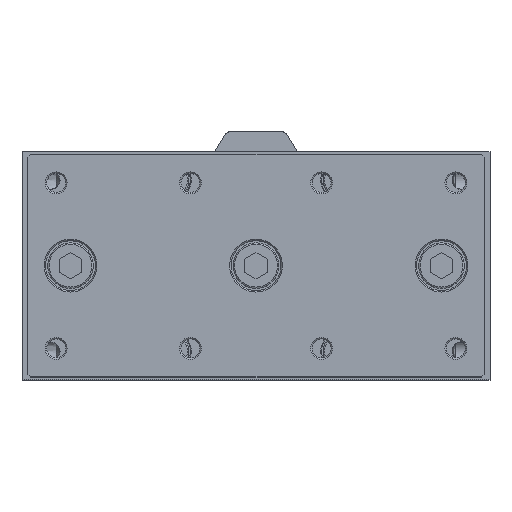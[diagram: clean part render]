
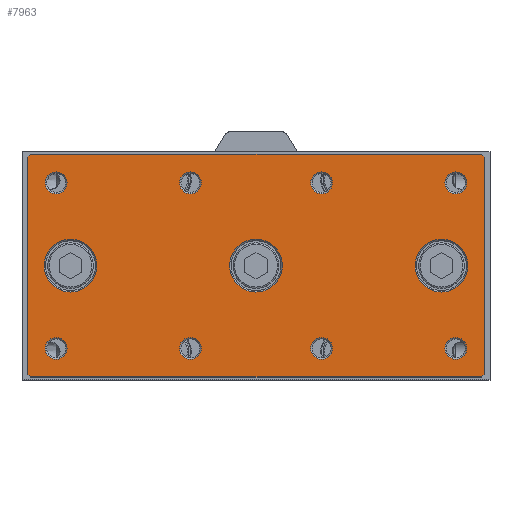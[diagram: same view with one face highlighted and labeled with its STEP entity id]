
A CAD part, top view. The second image highlights one B-rep face of the part: STEP entity #7963.
In plain terms, the highlighted planar face has unit normal (0, 0, 1).
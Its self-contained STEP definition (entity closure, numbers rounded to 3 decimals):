
#7745=CARTESIAN_POINT('',(-78.641,-40.316,135.5));
#7746=VERTEX_POINT('',#7745);
#7747=CARTESIAN_POINT('',(-79.641,-39.316,135.5));
#7748=VERTEX_POINT('',#7747);
#7749=CARTESIAN_POINT('',(-78.641,-40.316,135.5));
#7750=DIRECTION('',(-0.707,0.707,0.0));
#7751=VECTOR('',#7750,1.414);
#7752=LINE('',#7749,#7751);
#7753=EDGE_CURVE('',#7746,#7748,#7752,.T.);
#7780=CARTESIAN_POINT('',(0.359,-1.316,135.5));
#7781=DIRECTION('',(0.0,0.0,1.0));
#7782=DIRECTION('',(1.0,0.0,0.0));
#7783=AXIS2_PLACEMENT_3D('',#7780,#7781,#7782);
#7784=PLANE('',#7783);
#7785=ORIENTED_EDGE('',*,*,#7753,.F.);
#7786=CARTESIAN_POINT('',(79.359,-40.316,135.5));
#7787=VERTEX_POINT('',#7786);
#7788=CARTESIAN_POINT('',(79.359,-40.316,135.5));
#7789=DIRECTION('',(-1.0,0.0,0.0));
#7790=VECTOR('',#7789,158.0);
#7791=LINE('',#7788,#7790);
#7792=EDGE_CURVE('',#7787,#7746,#7791,.T.);
#7793=ORIENTED_EDGE('',*,*,#7792,.F.);
#7794=CARTESIAN_POINT('',(80.359,-39.316,135.5));
#7795=VERTEX_POINT('',#7794);
#7796=CARTESIAN_POINT('',(80.359,-39.316,135.5));
#7797=DIRECTION('',(-0.707,-0.707,0.0));
#7798=VECTOR('',#7797,1.414);
#7799=LINE('',#7796,#7798);
#7800=EDGE_CURVE('',#7795,#7787,#7799,.T.);
#7801=ORIENTED_EDGE('',*,*,#7800,.F.);
#7802=CARTESIAN_POINT('',(80.359,36.684,135.5));
#7803=VERTEX_POINT('',#7802);
#7804=CARTESIAN_POINT('',(80.359,36.684,135.5));
#7805=DIRECTION('',(0.0,-1.0,0.0));
#7806=VECTOR('',#7805,76.);
#7807=LINE('',#7804,#7806);
#7808=EDGE_CURVE('',#7803,#7795,#7807,.T.);
#7809=ORIENTED_EDGE('',*,*,#7808,.F.);
#7810=CARTESIAN_POINT('',(79.359,37.684,135.5));
#7811=VERTEX_POINT('',#7810);
#7812=CARTESIAN_POINT('',(79.359,37.684,135.5));
#7813=DIRECTION('',(0.707,-0.707,0.0));
#7814=VECTOR('',#7813,1.414);
#7815=LINE('',#7812,#7814);
#7816=EDGE_CURVE('',#7811,#7803,#7815,.T.);
#7817=ORIENTED_EDGE('',*,*,#7816,.F.);
#7818=CARTESIAN_POINT('',(-78.641,37.684,135.5));
#7819=VERTEX_POINT('',#7818);
#7820=CARTESIAN_POINT('',(-78.641,37.684,135.5));
#7821=DIRECTION('',(1.0,0.0,0.0));
#7822=VECTOR('',#7821,158.0);
#7823=LINE('',#7820,#7822);
#7824=EDGE_CURVE('',#7819,#7811,#7823,.T.);
#7825=ORIENTED_EDGE('',*,*,#7824,.F.);
#7826=CARTESIAN_POINT('',(-79.641,36.684,135.5));
#7827=VERTEX_POINT('',#7826);
#7828=CARTESIAN_POINT('',(-79.641,36.684,135.5));
#7829=DIRECTION('',(0.707,0.707,0.0));
#7830=VECTOR('',#7829,1.414);
#7831=LINE('',#7828,#7830);
#7832=EDGE_CURVE('',#7827,#7819,#7831,.T.);
#7833=ORIENTED_EDGE('',*,*,#7832,.F.);
#7834=CARTESIAN_POINT('',(-79.641,-39.316,135.5));
#7835=DIRECTION('',(0.0,1.0,0.0));
#7836=VECTOR('',#7835,76.0);
#7837=LINE('',#7834,#7836);
#7838=EDGE_CURVE('',#7748,#7827,#7837,.T.);
#7839=ORIENTED_EDGE('',*,*,#7838,.F.);
#7840=EDGE_LOOP('',(#7785,#7793,#7801,#7809,#7817,#7825,#7833,#7839));
#7841=FACE_OUTER_BOUND('',#7840,.T.);
#7842=CARTESIAN_POINT('',(-65.818,27.684,135.5));
#7843=VERTEX_POINT('',#7842);
#7844=CARTESIAN_POINT('',(-69.641,27.684,135.5));
#7845=DIRECTION('',(0.0,0.0,1.0));
#7846=DIRECTION('',(-1.0,0.0,0.0));
#7847=AXIS2_PLACEMENT_3D('',#7844,#7845,#7846);
#7848=CIRCLE('',#7847,3.823);
#7849=EDGE_CURVE('',#7843,#7843,#7848,.T.);
#7850=ORIENTED_EDGE('',*,*,#7849,.F.);
#7851=EDGE_LOOP('',(#7850));
#7852=FACE_BOUND('',#7851,.T.);
#7853=CARTESIAN_POINT('',(-18.818,27.684,135.5));
#7854=VERTEX_POINT('',#7853);
#7855=CARTESIAN_POINT('',(-22.641,27.684,135.5));
#7856=DIRECTION('',(0.0,0.0,1.0));
#7857=DIRECTION('',(-1.0,0.0,0.0));
#7858=AXIS2_PLACEMENT_3D('',#7855,#7856,#7857);
#7859=CIRCLE('',#7858,3.823);
#7860=EDGE_CURVE('',#7854,#7854,#7859,.T.);
#7861=ORIENTED_EDGE('',*,*,#7860,.F.);
#7862=EDGE_LOOP('',(#7861));
#7863=FACE_BOUND('',#7862,.T.);
#7864=CARTESIAN_POINT('',(9.609,-1.316,135.5));
#7865=VERTEX_POINT('',#7864);
#7866=CARTESIAN_POINT('',(0.359,-1.316,135.5));
#7867=DIRECTION('',(0.0,0.0,1.0));
#7868=DIRECTION('',(-1.0,0.0,0.0));
#7869=AXIS2_PLACEMENT_3D('',#7866,#7867,#7868);
#7870=CIRCLE('',#7869,9.25);
#7871=EDGE_CURVE('',#7865,#7865,#7870,.T.);
#7872=ORIENTED_EDGE('',*,*,#7871,.F.);
#7873=EDGE_LOOP('',(#7872));
#7874=FACE_BOUND('',#7873,.T.);
#7875=CARTESIAN_POINT('',(74.609,-1.316,135.5));
#7876=VERTEX_POINT('',#7875);
#7877=CARTESIAN_POINT('',(65.359,-1.316,135.5));
#7878=DIRECTION('',(0.0,0.0,1.0));
#7879=DIRECTION('',(-1.0,0.0,0.0));
#7880=AXIS2_PLACEMENT_3D('',#7877,#7878,#7879);
#7881=CIRCLE('',#7880,9.25);
#7882=EDGE_CURVE('',#7876,#7876,#7881,.T.);
#7883=ORIENTED_EDGE('',*,*,#7882,.F.);
#7884=EDGE_LOOP('',(#7883));
#7885=FACE_BOUND('',#7884,.T.);
#7886=CARTESIAN_POINT('',(-55.391,-1.316,135.5));
#7887=VERTEX_POINT('',#7886);
#7888=CARTESIAN_POINT('',(-64.641,-1.316,135.5));
#7889=DIRECTION('',(0.0,0.0,1.0));
#7890=DIRECTION('',(-1.0,0.0,0.0));
#7891=AXIS2_PLACEMENT_3D('',#7888,#7889,#7890);
#7892=CIRCLE('',#7891,9.25);
#7893=EDGE_CURVE('',#7887,#7887,#7892,.T.);
#7894=ORIENTED_EDGE('',*,*,#7893,.F.);
#7895=EDGE_LOOP('',(#7894));
#7896=FACE_BOUND('',#7895,.T.);
#7897=CARTESIAN_POINT('',(74.182,-30.316,135.5));
#7898=VERTEX_POINT('',#7897);
#7899=CARTESIAN_POINT('',(70.359,-30.316,135.5));
#7900=DIRECTION('',(0.0,0.0,1.0));
#7901=DIRECTION('',(-1.0,0.0,0.0));
#7902=AXIS2_PLACEMENT_3D('',#7899,#7900,#7901);
#7903=CIRCLE('',#7902,3.823);
#7904=EDGE_CURVE('',#7898,#7898,#7903,.T.);
#7905=ORIENTED_EDGE('',*,*,#7904,.F.);
#7906=EDGE_LOOP('',(#7905));
#7907=FACE_BOUND('',#7906,.T.);
#7908=CARTESIAN_POINT('',(-65.818,-30.316,135.5));
#7909=VERTEX_POINT('',#7908);
#7910=CARTESIAN_POINT('',(-69.641,-30.316,135.5));
#7911=DIRECTION('',(0.0,0.0,1.0));
#7912=DIRECTION('',(-1.0,0.0,0.0));
#7913=AXIS2_PLACEMENT_3D('',#7910,#7911,#7912);
#7914=CIRCLE('',#7913,3.823);
#7915=EDGE_CURVE('',#7909,#7909,#7914,.T.);
#7916=ORIENTED_EDGE('',*,*,#7915,.F.);
#7917=EDGE_LOOP('',(#7916));
#7918=FACE_BOUND('',#7917,.T.);
#7919=CARTESIAN_POINT('',(74.182,27.684,135.5));
#7920=VERTEX_POINT('',#7919);
#7921=CARTESIAN_POINT('',(70.359,27.684,135.5));
#7922=DIRECTION('',(0.0,0.0,1.0));
#7923=DIRECTION('',(-1.0,0.0,0.0));
#7924=AXIS2_PLACEMENT_3D('',#7921,#7922,#7923);
#7925=CIRCLE('',#7924,3.823);
#7926=EDGE_CURVE('',#7920,#7920,#7925,.T.);
#7927=ORIENTED_EDGE('',*,*,#7926,.F.);
#7928=EDGE_LOOP('',(#7927));
#7929=FACE_BOUND('',#7928,.T.);
#7930=CARTESIAN_POINT('',(27.182,-30.316,135.5));
#7931=VERTEX_POINT('',#7930);
#7932=CARTESIAN_POINT('',(23.359,-30.316,135.5));
#7933=DIRECTION('',(0.0,0.0,1.0));
#7934=DIRECTION('',(-1.0,0.0,0.0));
#7935=AXIS2_PLACEMENT_3D('',#7932,#7933,#7934);
#7936=CIRCLE('',#7935,3.824);
#7937=EDGE_CURVE('',#7931,#7931,#7936,.T.);
#7938=ORIENTED_EDGE('',*,*,#7937,.F.);
#7939=EDGE_LOOP('',(#7938));
#7940=FACE_BOUND('',#7939,.T.);
#7941=CARTESIAN_POINT('',(-18.818,-30.316,135.5));
#7942=VERTEX_POINT('',#7941);
#7943=CARTESIAN_POINT('',(-22.641,-30.316,135.5));
#7944=DIRECTION('',(0.0,0.0,1.0));
#7945=DIRECTION('',(-1.0,0.0,0.0));
#7946=AXIS2_PLACEMENT_3D('',#7943,#7944,#7945);
#7947=CIRCLE('',#7946,3.823);
#7948=EDGE_CURVE('',#7942,#7942,#7947,.T.);
#7949=ORIENTED_EDGE('',*,*,#7948,.F.);
#7950=EDGE_LOOP('',(#7949));
#7951=FACE_BOUND('',#7950,.T.);
#7952=CARTESIAN_POINT('',(27.182,27.684,135.5));
#7953=VERTEX_POINT('',#7952);
#7954=CARTESIAN_POINT('',(23.359,27.684,135.5));
#7955=DIRECTION('',(0.0,0.0,1.0));
#7956=DIRECTION('',(-1.0,0.0,0.0));
#7957=AXIS2_PLACEMENT_3D('',#7954,#7955,#7956);
#7958=CIRCLE('',#7957,3.824);
#7959=EDGE_CURVE('',#7953,#7953,#7958,.T.);
#7960=ORIENTED_EDGE('',*,*,#7959,.F.);
#7961=EDGE_LOOP('',(#7960));
#7962=FACE_BOUND('',#7961,.T.);
#7963=ADVANCED_FACE('',(#7841,#7852,#7863,#7874,#7885,#7896,#7907,#7918,#7929,#7940,#7951,#7962),#7784,.T.);
